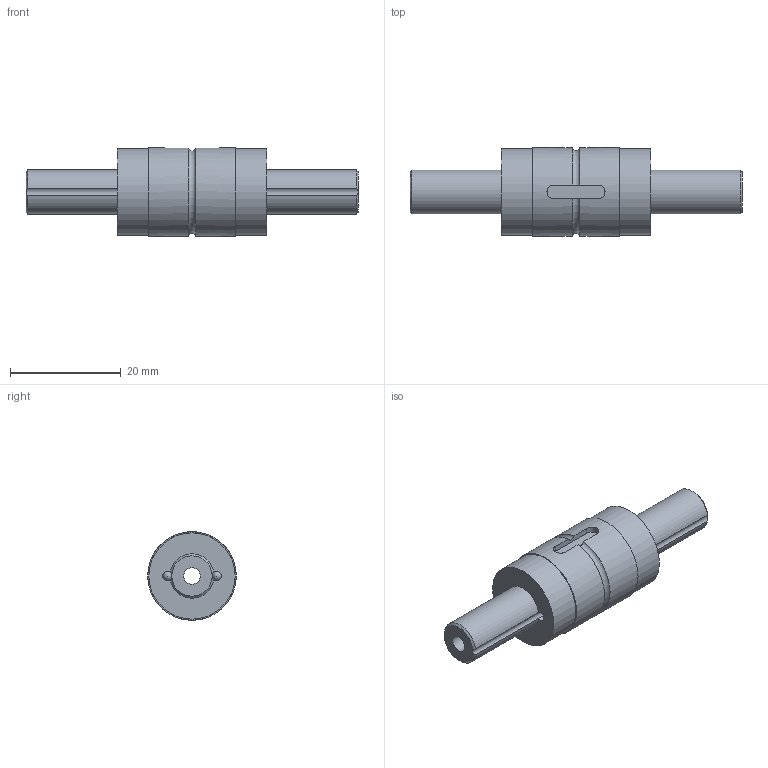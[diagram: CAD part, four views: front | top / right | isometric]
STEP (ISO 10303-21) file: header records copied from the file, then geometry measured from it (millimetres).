
FILE_DESCRIPTION(/* description */ ('Unknown'),/* implementation_level */ '2;1');
FILE_NAME(/* name */ 'TLT008-D1-L60',/* time_stamp */ '2024-12-23T10:10:14+08:00',/* author */ ('Unknown'),/* organization */ ('Unknown'),/* preprocessor_version */ 'ST-DEVELOPER v18.102',/* originating_system */ 'Solid Edge',/* authorisation */ 'Unknown');
FILE_SCHEMA (('AUTOMOTIVE_DESIGN {1 0 10303 214 3 1 1}'));
Length unit declared in the file: millimetre
Products named in the file (3): TLT008-D1-L60; TLT008-D1-xxxx; TLT008
Assembly tree (2 placements, depth 2):
  TLT008-D1-L60
    TLT008-D1-xxxx
    TLT008
Bounding box: 60 x 16 x 16 mm (x, y, z)
Volume: 6370.5 mm3; surface area: 4761.5 mm2
Topology: 2 solids, 2 shells, 41 faces, 164 edges, 108 vertices
Faces by surface type: cylinder 16, sphere 10, plane 9, cone 4, torus 2
Full cylindrical faces by diameter (mm): 1.5 x1, 3 x1, 15.6 x2, 16 x2
Entity records: 1946 total; most frequent: CARTESIAN_POINT 650, ORIENTED_EDGE 274, DIRECTION 210, EDGE_CURVE 137, VERTEX_POINT 97, AXIS2_PLACEMENT_3D 86, EDGE_LOOP 80, FACE_BOUND 80
